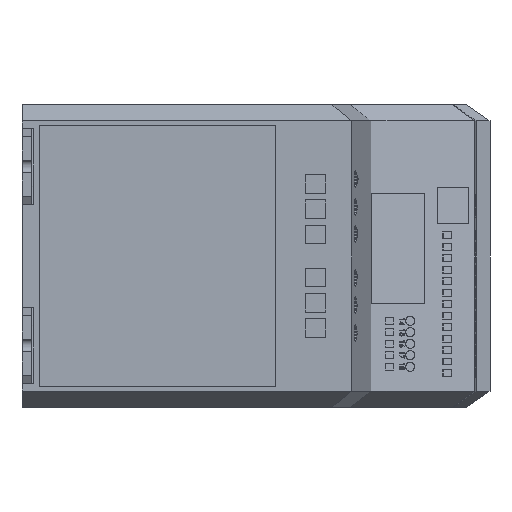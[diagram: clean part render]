
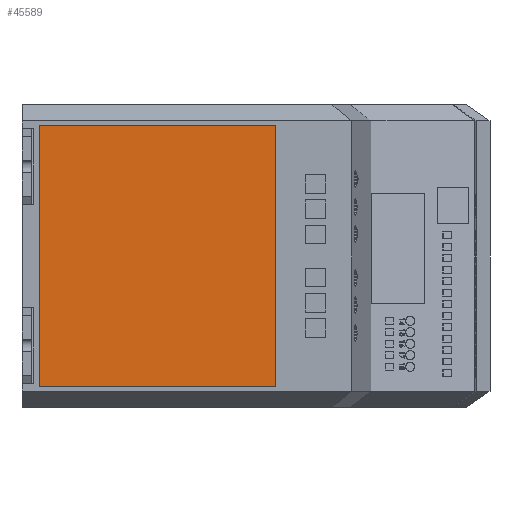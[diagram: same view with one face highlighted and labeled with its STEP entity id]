
A CAD part, front view. The second image highlights one B-rep face of the part: STEP entity #45589.
In plain terms, the highlighted planar face has unit normal (-0.005, -1, 0).
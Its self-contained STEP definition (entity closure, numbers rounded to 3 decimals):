
#88 = VECTOR ( 'NONE', #44399, 1000. ) ;
#1008 = DIRECTION ( 'NONE',  ( -1., 0.005, 0. ) ) ;
#2129 = AXIS2_PLACEMENT_3D ( 'NONE', #22348, #44407, #36961 ) ;
#5884 = VERTEX_POINT ( 'NONE', #12177 ) ;
#9997 = VERTEX_POINT ( 'NONE', #30398 ) ;
#12177 = CARTESIAN_POINT ( 'NONE',  ( 67.179, -111.968, 8.9 ) ) ;
#12446 = VECTOR ( 'NONE', #20555, 1000. ) ;
#13001 = LINE ( 'NONE', #38123, #12446 ) ;
#14070 = CARTESIAN_POINT ( 'NONE',  ( -35.82, -111.494, 8.9 ) ) ;
#15151 = PLANE ( 'NONE',  #2129 ) ;
#15553 = EDGE_LOOP ( 'NONE', ( #29133, #16213, #37495, #20856 ) ) ;
#16213 = ORIENTED_EDGE ( 'NONE', *, *, #18578, .T. ) ;
#18578 = EDGE_CURVE ( 'NONE', #9997, #24818, #41824, .T. ) ;
#19219 = CARTESIAN_POINT ( 'NONE',  ( 67.179, -111.968, 8.9 ) ) ;
#19691 = CARTESIAN_POINT ( 'NONE',  ( -35.82, -111.494, 122.9 ) ) ;
#20555 = DIRECTION ( 'NONE',  ( 0., 0., 1. ) ) ;
#20856 = ORIENTED_EDGE ( 'NONE', *, *, #33001, .T. ) ;
#22348 = CARTESIAN_POINT ( 'NONE',  ( -0.514, -111.656, 0. ) ) ;
#23853 = CARTESIAN_POINT ( 'NONE',  ( -35.82, -111.494, 122.9 ) ) ;
#24523 = EDGE_CURVE ( 'NONE', #5884, #9997, #13001, .T. ) ;
#24818 = VERTEX_POINT ( 'NONE', #23853 ) ;
#26150 = EDGE_CURVE ( 'NONE', #24818, #45455, #35797, .T. ) ;
#26794 = VECTOR ( 'NONE', #1008, 1000. ) ;
#29133 = ORIENTED_EDGE ( 'NONE', *, *, #24523, .T. ) ;
#30398 = CARTESIAN_POINT ( 'NONE',  ( 67.179, -111.968, 122.9 ) ) ;
#33001 = EDGE_CURVE ( 'NONE', #45455, #5884, #44696, .T. ) ;
#35797 = LINE ( 'NONE', #19691, #44133 ) ;
#36961 = DIRECTION ( 'NONE',  ( -1., 0.005, 0. ) ) ;
#37495 = ORIENTED_EDGE ( 'NONE', *, *, #26150, .T. ) ;
#38123 = CARTESIAN_POINT ( 'NONE',  ( 67.179, -111.968, 122.9 ) ) ;
#41118 = DIRECTION ( 'NONE',  ( 0., 0., -1. ) ) ;
#41824 = LINE ( 'NONE', #42611, #26794 ) ;
#41920 = FACE_OUTER_BOUND ( 'NONE', #15553, .T. ) ;
#42611 = CARTESIAN_POINT ( 'NONE',  ( 67.179, -111.968, 122.9 ) ) ;
#44133 = VECTOR ( 'NONE', #41118, 1000. ) ;
#44399 = DIRECTION ( 'NONE',  ( 1., -0.005, 0. ) ) ;
#44407 = DIRECTION ( 'NONE',  ( 0.005, 1., 0. ) ) ;
#44696 = LINE ( 'NONE', #19219, #88 ) ;
#45455 = VERTEX_POINT ( 'NONE', #14070 ) ;
#45589 = ADVANCED_FACE ( 'NONE', ( #41920 ), #15151, .F. ) ;
